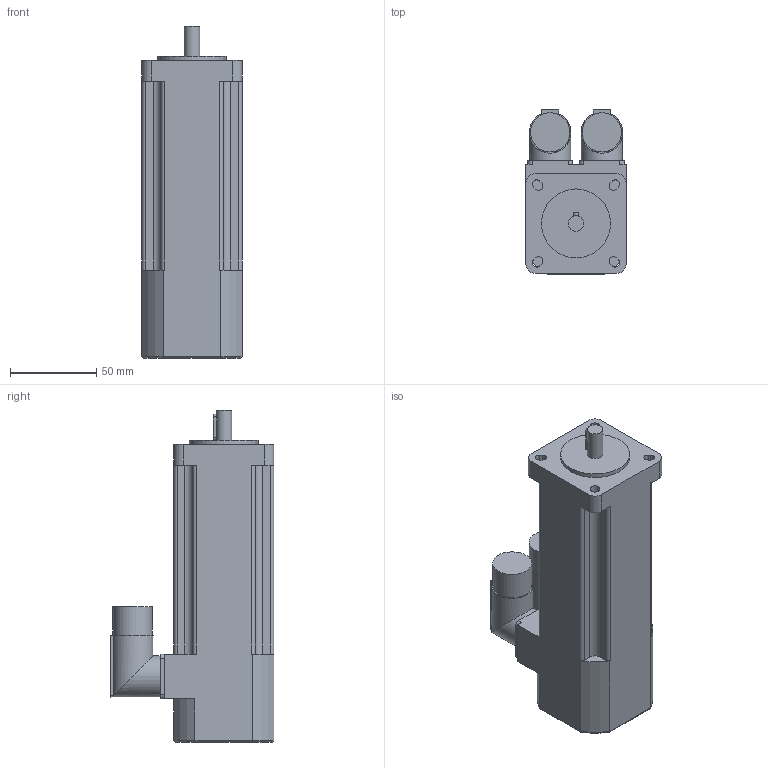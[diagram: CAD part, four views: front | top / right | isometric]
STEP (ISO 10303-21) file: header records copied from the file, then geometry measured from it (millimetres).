
FILE_DESCRIPTION(/* description */ (''),/* implementation_level */ '2;1');
FILE_NAME(/* name */ '\\Lafnas01\disegni\Archivi Lafert\3D\CAD 3D\MODELLI\Assiemi clienti\Serad\Modelli 3D Serad\B28Q\Encoder\With Brake\B2801Qxx6BRx2033.ipt.stp',/* time_stamp */ '2015-09-07T10:48:19+02:00',/* author */ ('Pastrello Ylenia'),/* organization */ (''),/* preprocessor_version */ 'ST-DEVELOPER v15.6',/* originating_system */ 'Autodesk Inventor 2015',/* authorisation */ '');
FILE_SCHEMA (('AUTOMOTIVE_DESIGN { 1 0 10303 214 3 1 1 }'));
Length unit declared in the file: millimetre
Products named in the file (1): B2801Qxx6BRx2033
Bounding box: 58 x 95 x 192.5 mm (x, y, z)
Volume: 583239 mm3; surface area: 56658.5 mm2
Topology: 1 solids, 1 shells, 135 faces, 364 edges, 237 vertices
Faces by surface type: plane 71, cylinder 60, torus 4
Full cylindrical faces by diameter (mm): 9 x1, 22.7 x2, 24 x2, 40 x1
Entity records: 4341 total; most frequent: CARTESIAN_POINT 864, DIRECTION 737, ORIENTED_EDGE 712, EDGE_CURVE 355, AXIS2_PLACEMENT_3D 258, VERTEX_POINT 235, LINE 221, VECTOR 221
